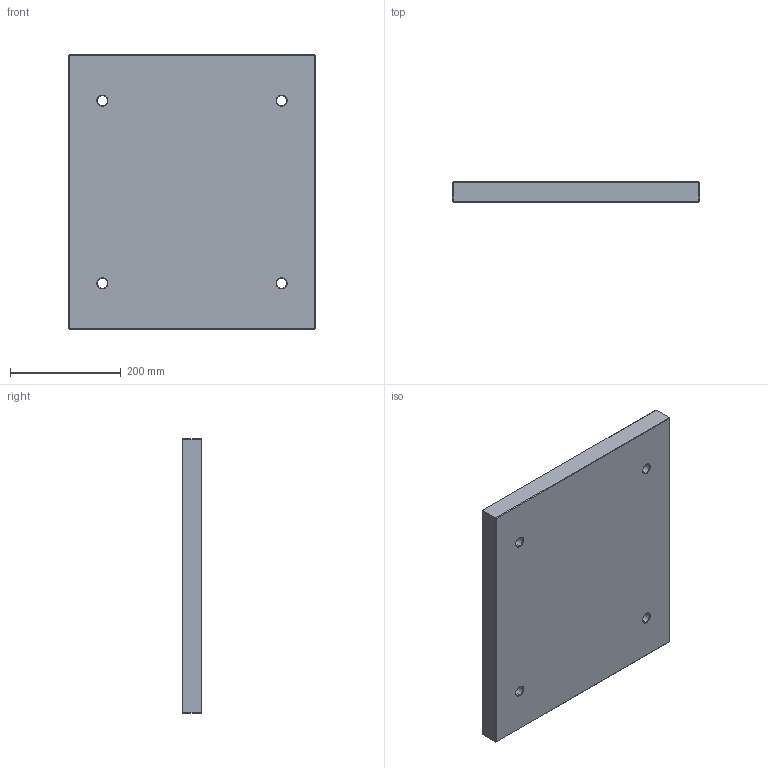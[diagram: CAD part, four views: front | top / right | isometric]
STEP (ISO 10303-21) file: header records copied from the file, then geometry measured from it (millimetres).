
FILE_DESCRIPTION (( 'STEP AP214' ), '1' );
FILE_NAME ('396x496x36.STEP', '2020-03-09T17:58:08', ( 'August' ), ( '' ), 'SwSTEP 2.0', 'SolidWorks 2018', '' );
FILE_SCHEMA (( 'AUTOMOTIVE_DESIGN' ));
Length unit declared in the file: millimetre
Products named in the file (1): 396x496x36
Bounding box: 446 x 36 x 496 mm (x, y, z)
Volume: 7904991.8 mm3; surface area: 515564.7 mm2
Topology: 1 solids, 1 shells, 62 faces, 128 edges, 72 vertices
Faces by surface type: plane 30, cone 16, cylinder 16
Entity records: 1650 total; most frequent: DIRECTION 302, CARTESIAN_POINT 263, ORIENTED_EDGE 256, EDGE_CURVE 128, AXIS2_PLACEMENT_3D 111, LINE 80, VECTOR 80, EDGE_LOOP 74
